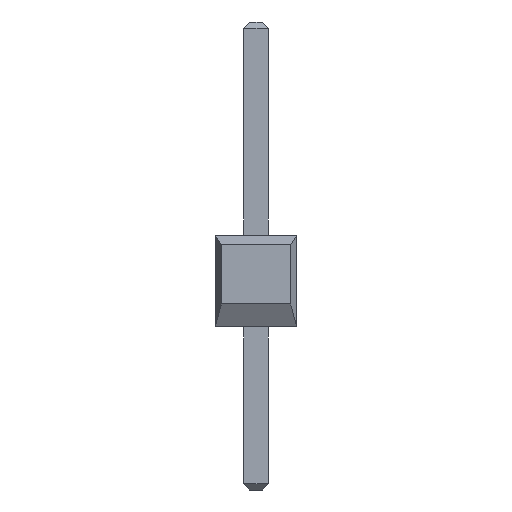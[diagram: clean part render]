
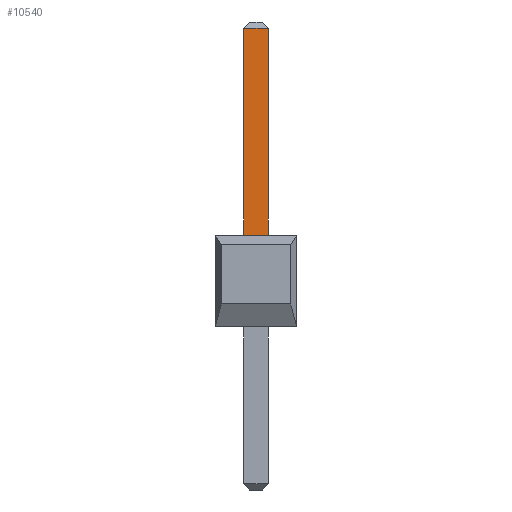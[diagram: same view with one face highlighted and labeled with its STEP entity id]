
A CAD part, left-side view. The second image highlights one B-rep face of the part: STEP entity #10540.
In plain terms, the highlighted planar face has unit normal (-1, 0, 0).
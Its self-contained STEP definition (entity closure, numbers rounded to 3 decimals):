
#10306=CARTESIAN_POINT('',(-0.381,0.381,9.309));
#10305=VERTEX_POINT('',#10306);
#10355=CARTESIAN_POINT('',(-0.381,-0.381,9.309));
#10354=VERTEX_POINT('',#10355);
#10353=EDGE_CURVE('',#10354,#10305,#10358,.T.);
#10358=LINE('',#10355,#10360);
#10360=VECTOR('',#10361,0.762);
#10361=DIRECTION('',(0.0,1.0,0.0));
#10502=CARTESIAN_POINT('',(-0.381,0.381,2.862));
#10501=VERTEX_POINT('',#10502);
#10510=EDGE_CURVE('',#10305,#10501,#10515,.T.);
#10515=LINE('',#10306,#10517);
#10517=VECTOR('',#10518,6.447);
#10518=DIRECTION('',(0.0,0.0,-1.0));
#10540=ADVANCED_FACE('',(#10546),#10541,.T.);
#10541=PLANE('',#10542);
#10542=AXIS2_PLACEMENT_3D('',#10543,#10544,#10545);
#10543=CARTESIAN_POINT('',(-0.381,0.381,2.862));
#10544=DIRECTION('',(-1.0,0.0,0.0));
#10545=DIRECTION('',(0.,0.,1.));
#10546=FACE_OUTER_BOUND('',#10547,.T.);
#10547=EDGE_LOOP('',(#10548,#10558,#10568,#10578));
#10551=CARTESIAN_POINT('',(-0.381,-0.381,2.862));
#10550=VERTEX_POINT('',#10551);
#10549=EDGE_CURVE('',#10550,#10501,#10554,.T.);
#10554=LINE('',#10551,#10556);
#10556=VECTOR('',#10557,0.762);
#10557=DIRECTION('',(0.0,1.0,0.0));
#10548=ORIENTED_EDGE('',*,*,#10549,.F.);
#10559=EDGE_CURVE('',#10354,#10550,#10564,.T.);
#10564=LINE('',#10355,#10566);
#10566=VECTOR('',#10567,6.447);
#10567=DIRECTION('',(0.0,0.0,-1.0));
#10558=ORIENTED_EDGE('',*,*,#10559,.F.);
#10568=ORIENTED_EDGE('',*,*,#10353,.T.);
#10578=ORIENTED_EDGE('',*,*,#10510,.T.);
